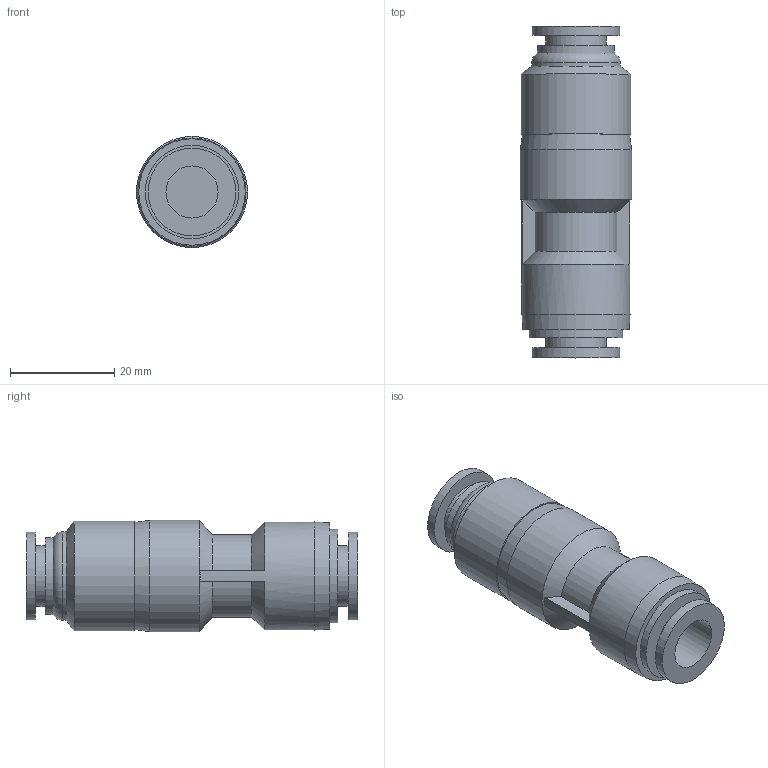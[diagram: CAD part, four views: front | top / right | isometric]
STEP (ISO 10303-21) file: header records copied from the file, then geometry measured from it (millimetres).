
FILE_DESCRIPTION(/* description */ (''),/* implementation_level */ '2;1');
FILE_NAME(/* name */ 'S:\_Tecnico\ArchivioUT\_Disegni3D ingombri\DISEGNI 3D per ingombri\RF\RF220010.stp',/* time_stamp */ '2019-10-02T15:16:48+02:00',/* author */ ('ufficiotecnico3'),/* organization */ (''),/* preprocessor_version */ 'ST-DEVELOPER v18',/* originating_system */ 'Autodesk Inventor 2020',/* authorisation */ '');
FILE_SCHEMA (('AUTOMOTIVE_DESIGN { 1 0 10303 214 3 1 1 }'));
Length unit declared in the file: millimetre
Products named in the file (1): Parte9
Bounding box: 21.3 x 63.6 x 21.3 mm (x, y, z)
Volume: 13976 mm3; surface area: 6866.1 mm2
Topology: 1 solids, 1 shells, 37 faces, 97 edges, 70 vertices
Faces by surface type: cylinder 15, plane 14, cone 7, torus 1
Full cylindrical faces by diameter (mm): 7 x1, 10 x2, 11.5 x2, 14.6 x1, 16.8 x2, 17 x1, 17.9 x1, 20.7 x1, 21 x1, 21.3 x1
Entity records: 1229 total; most frequent: DIRECTION 226, CARTESIAN_POINT 220, ORIENTED_EDGE 192, AXIS2_PLACEMENT_3D 100, EDGE_CURVE 96, VERTEX_POINT 70, CIRCLE 62, EDGE_LOOP 46
